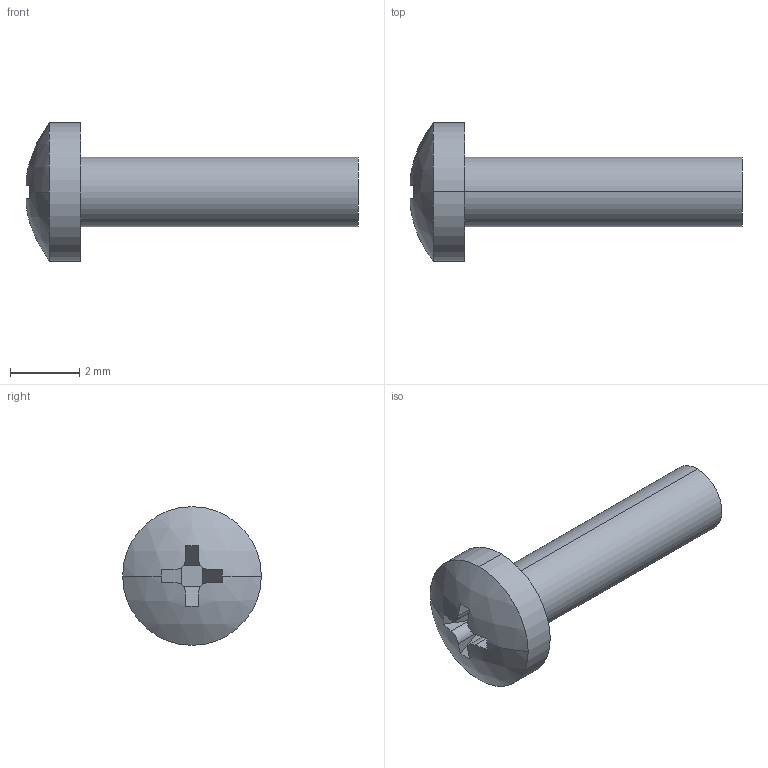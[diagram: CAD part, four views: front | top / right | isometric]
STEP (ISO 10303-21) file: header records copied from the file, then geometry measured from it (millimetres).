
FILE_DESCRIPTION(('Open CASCADE Model'),'2;1');
FILE_NAME('gb-pan-head-screw-m2-x-8.step','2026-11-14T14:32:00',( 'Author'),('Open CASCADE'),'Open CASCADE STEP processor 8.0', 'Open CASCADE 8.0','Unknown');
FILE_SCHEMA(('AP242_MANAGED_MODEL_BASED_3D_ENGINEERING_MIM_LF {1 0 10303 442 1 1 4 }' ));
Length unit declared in the file: millimetre
Products named in the file (1): GB Pan Head Screw M2 x 8
Bounding box: 9.58 x 4 x 4 mm (x, y, z)
Volume: 40.1 mm3; surface area: 92.1 mm2
Topology: 1 solids, 1 shells, 25 faces, 66 edges, 44 vertices
Faces by surface type: plane 15, cylinder 8, sphere 2
Entity records: 2384 total; most frequent: CARTESIAN_POINT 1164, DIRECTION 212, ORIENTED_EDGE 132, PCURVE 132, DEFINITIONAL_REPRESENTATION 132, LINE 94, VECTOR 94, EDGE_CURVE 66
